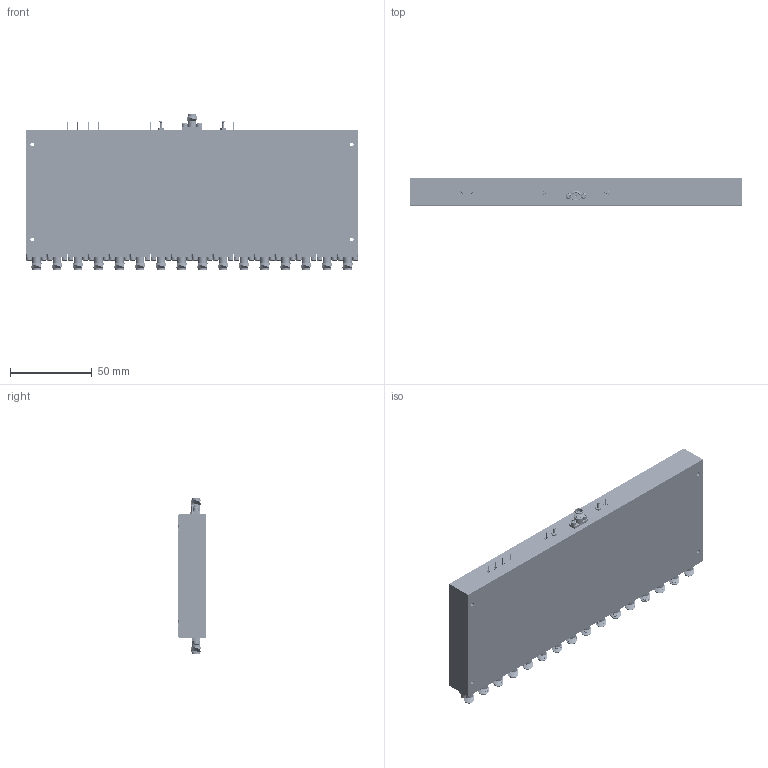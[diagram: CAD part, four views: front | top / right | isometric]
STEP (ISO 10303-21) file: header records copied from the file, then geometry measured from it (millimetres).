
FILE_DESCRIPTION (( 'STEP AP214' ), '1' );
FILE_NAME ('P16T-250M18G-80-T-512-SFF-DEC-1W-DB.STEP', '2026-08-20T16:03:55', ( '' ), ( '' ), 'SwSTEP 2.0', 'SolidWorks 2025', '' );
FILE_SCHEMA (( 'AUTOMOTIVE_DESIGN' ));
Length unit declared in the file: inch
Products named in the file (1): P16T-250M18G-80-T-512-SFF-DEC-1W-DB
Bounding box: 203.2 x 16.54 x 95.25 mm (x, y, z)
Volume: 260267.2 mm3; surface area: 83210 mm2
Topology: 131 solids, 131 shells, 3178 faces, 8349 edges, 5749 vertices
Faces by surface type: plane 1484, cylinder 717, torus 447, cone 254, sphere 218, bspline 58
Full cylindrical faces by diameter (mm): 0.305 x17, 0.559 x17, 0.635 x12, 1.016 x17, 1.067 x2, 1.27 x17, 1.854 x36, 1.93 x8, 1.956 x6, 1.981 x17, 2.184 x72, 2.261 x4, 2.489 x17, 2.591 x34, 2.845 x4, 2.896 x6, 3.302 x17, 3.556 x34, 4.191 x34, 4.597 x17, 5.283 x34
Entity records: 152877 total; most frequent: CARTESIAN_POINT 38324, DIRECTION 15359, ORIENTED_EDGE 14296, EDGE_CURVE 7148, AXIS2_PLACEMENT_3D 6240, VERTEX_POINT 5603, EDGE_LOOP 4625, FACE_OUTER_BOUND 4001
